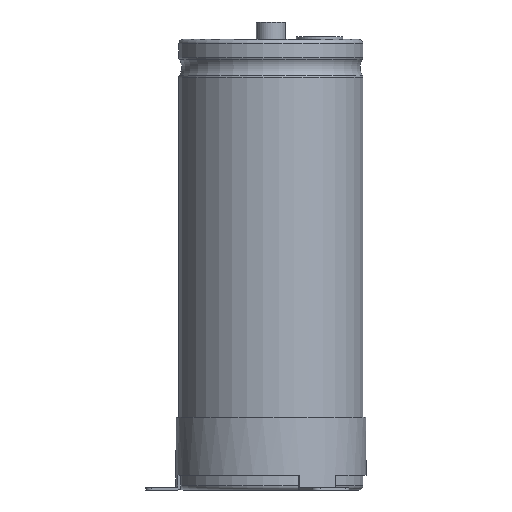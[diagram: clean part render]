
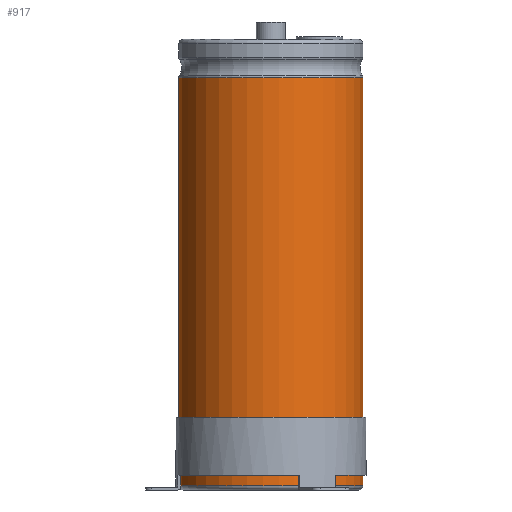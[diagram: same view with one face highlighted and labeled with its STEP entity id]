
A CAD part, front view. The second image highlights one B-rep face of the part: STEP entity #917.
In plain terms, the highlighted cylindrical face has radius 31.75 mm (diameter 63.5 mm), a partial arc.
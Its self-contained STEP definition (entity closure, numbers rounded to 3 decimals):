
#917=ADVANCED_FACE('',(#1213),#1039,.T.);
#1039=CYLINDRICAL_SURFACE('',#4878,31.75);
#1213=FACE_OUTER_BOUND('',#1474,.T.);
#1474=EDGE_LOOP('',(#2748,#2749,#2750,#2751));
#1758=CIRCLE('',#4875,31.75);
#1759=CIRCLE('',#4877,31.75);
#2748=ORIENTED_EDGE('',*,*,#3929,.T.);
#2749=ORIENTED_EDGE('',*,*,#3930,.T.);
#2750=ORIENTED_EDGE('',*,*,#3931,.F.);
#2751=ORIENTED_EDGE('',*,*,#3932,.F.);
#3366=VERTEX_POINT('',#7964);
#3368=VERTEX_POINT('',#7968);
#3369=VERTEX_POINT('',#7972);
#3370=VERTEX_POINT('',#7974);
#3929=EDGE_CURVE('',#3366,#3368,#1758,.T.);
#3930=EDGE_CURVE('',#3368,#3369,#4255,.T.);
#3931=EDGE_CURVE('',#3370,#3369,#1759,.T.);
#3932=EDGE_CURVE('',#3366,#3370,#4256,.T.);
#4255=LINE('',#7971,#4469);
#4256=LINE('',#7975,#4470);
#4469=VECTOR('',#5936,1.);
#4470=VECTOR('',#5939,1.);
#4875=AXIS2_PLACEMENT_3D('',#7969,#5932,#5933);
#4877=AXIS2_PLACEMENT_3D('',#7973,#5937,#5938);
#4878=AXIS2_PLACEMENT_3D('',#7976,#5940,#5941);
#5932=DIRECTION('',(0.,0.,-1.));
#5933=DIRECTION('',(0.,1.,0.));
#5936=DIRECTION('',(0.,0.,-1.));
#5937=DIRECTION('',(0.,0.,-1.));
#5938=DIRECTION('',(0.,1.,0.));
#5939=DIRECTION('',(0.,0.,-1.));
#5940=DIRECTION('',(0.,0.,-1.));
#5941=DIRECTION('',(0.,1.,0.));
#7964=CARTESIAN_POINT('',(4.007,31.496,141.9));
#7968=CARTESIAN_POINT('',(-4.007,31.496,141.9));
#7969=CARTESIAN_POINT('',(0.,0.,141.9));
#7971=CARTESIAN_POINT('',(-4.007,31.496,141.9));
#7972=CARTESIAN_POINT('',(-4.007,31.496,1.5));
#7973=CARTESIAN_POINT('',(0.,0.,1.5));
#7974=CARTESIAN_POINT('',(4.007,31.496,1.5));
#7975=CARTESIAN_POINT('',(4.007,31.496,141.9));
#7976=CARTESIAN_POINT('',(0.,0.,0.));
